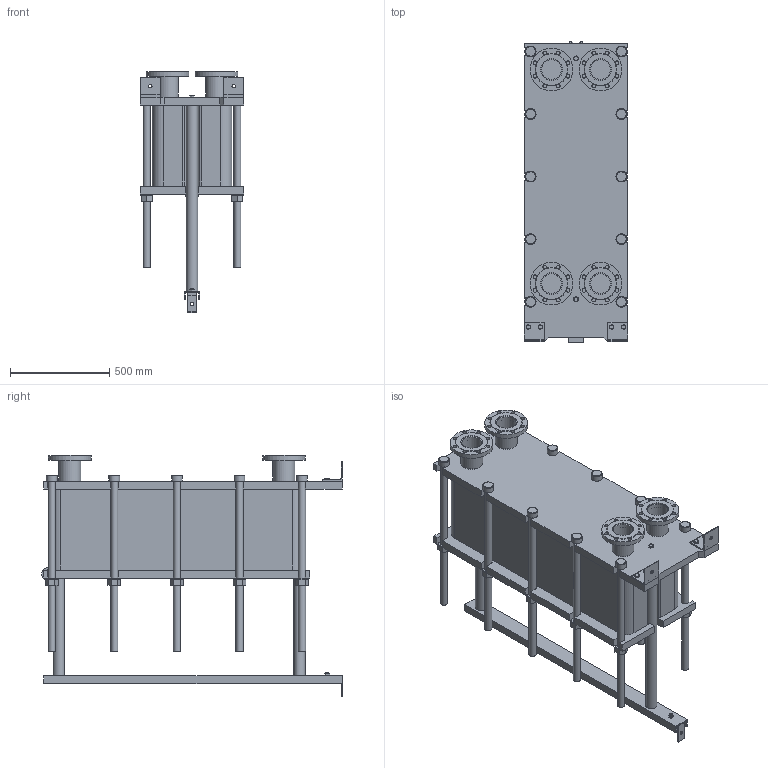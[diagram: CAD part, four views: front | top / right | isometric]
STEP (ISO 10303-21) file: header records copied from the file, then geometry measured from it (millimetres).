
FILE_DESCRIPTION(/* description */ (''),/* implementation_level */ '2;1');
FILE_NAME(/* name */ 'C:\Users\zhuro\Desktop\ENCO\TO\ЭН-04\ЭН-0,5-04-118-1.stp',/* time_stamp */ '2022-06-06T10:55:54+03:00',/* author */ ('zhuro'),/* organization */ (''),/* preprocessor_version */ 'ST-DEVELOPER v18.1',/* originating_system */ 'Autodesk Inventor 2022',/* authorisation */ '');
FILE_SCHEMA (('AUTOMOTIVE_DESIGN { 1 0 10303 214 3 1 1 }'));
Length unit declared in the file: millimetre
Products named in the file (1): ЭН-0,5-04-118-1
Bounding box: 520 x 1510 x 1214 mm (x, y, z)
Volume: 275625512.8 mm3; surface area: 8751083.6 mm2
Topology: 45 solids, 45 shells, 668 faces, 1611 edges, 1048 vertices
Faces by surface type: plane 457, cylinder 166, cone 39, torus 6
Full cylindrical faces by diameter (mm): 8 x4, 10 x2, 16 x8, 18 x35, 36 x25, 40 x2, 42 x1, 45 x4, 54 x10, 57 x2, 60 x10, 68 x2, 100 x4, 110 x8, 215 x4
Entity records: 23607 total; most frequent: CARTESIAN_POINT 7348, DIRECTION 3371, ORIENTED_EDGE 3142, EDGE_CURVE 1571, AXIS2_PLACEMENT_3D 1199, VERTEX_POINT 1044, LINE 973, VECTOR 973
